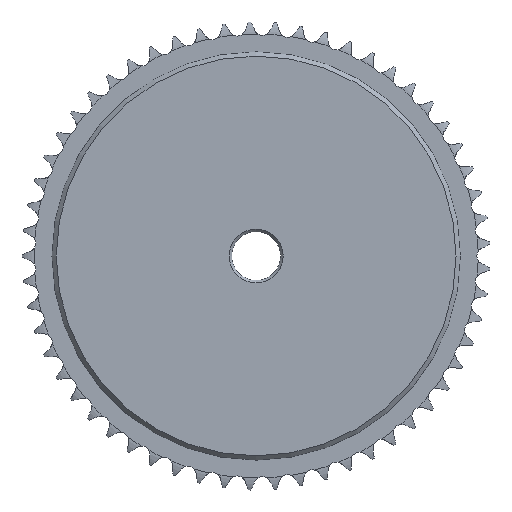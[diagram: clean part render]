
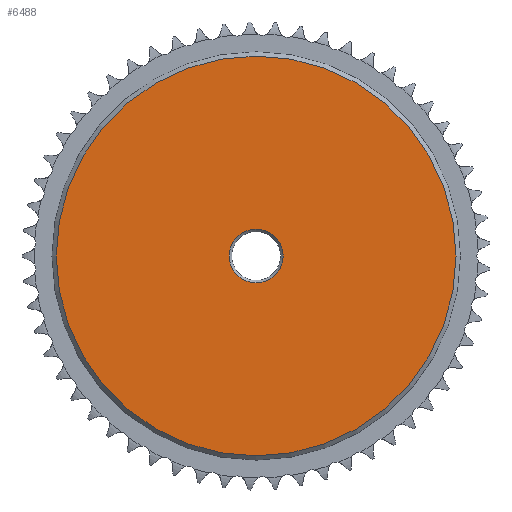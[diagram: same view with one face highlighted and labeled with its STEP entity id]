
A CAD part, left-side view. The second image highlights one B-rep face of the part: STEP entity #6488.
In plain terms, the highlighted planar face has unit normal (-1, 0, 0).
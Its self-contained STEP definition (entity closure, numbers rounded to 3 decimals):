
#139=FACE_BOUND('',#850,.T.);
#144=PLANE('',#7189);
#492=FACE_OUTER_BOUND('',#849,.T.);
#849=EDGE_LOOP('',(#5784));
#850=EDGE_LOOP('',(#5785));
#1204=CIRCLE('',#7188,5.35);
#1205=CIRCLE('',#7190,39.65);
#2809=VERTEX_POINT('',#13228);
#2810=VERTEX_POINT('',#13231);
#3842=EDGE_CURVE('',#2809,#2809,#1204,.T.);
#3843=EDGE_CURVE('',#2810,#2810,#1205,.T.);
#5784=ORIENTED_EDGE('',*,*,#3843,.F.);
#5785=ORIENTED_EDGE('',*,*,#3842,.T.);
#6488=ADVANCED_FACE('',(#492,#139),#144,.T.);
#7188=AXIS2_PLACEMENT_3D('',#13229,#8812,#8813);
#7189=AXIS2_PLACEMENT_3D('',#13230,#8814,#8815);
#7190=AXIS2_PLACEMENT_3D('',#13232,#8816,#8817);
#8812=DIRECTION('center_axis',(1.,0.,0.));
#8813=DIRECTION('ref_axis',(0.,0.,-1.));
#8814=DIRECTION('center_axis',(-1.,0.,0.));
#8815=DIRECTION('ref_axis',(0.,0.,1.));
#8816=DIRECTION('center_axis',(1.,0.,0.));
#8817=DIRECTION('ref_axis',(0.,0.,-1.));
#13228=CARTESIAN_POINT('',(-2.249,5.208,0.));
#13229=CARTESIAN_POINT('Origin',(-2.249,-0.142,0.));
#13230=CARTESIAN_POINT('Origin',(-2.249,39.508,0.));
#13231=CARTESIAN_POINT('',(-2.249,39.508,0.));
#13232=CARTESIAN_POINT('Origin',(-2.249,-0.142,0.));
